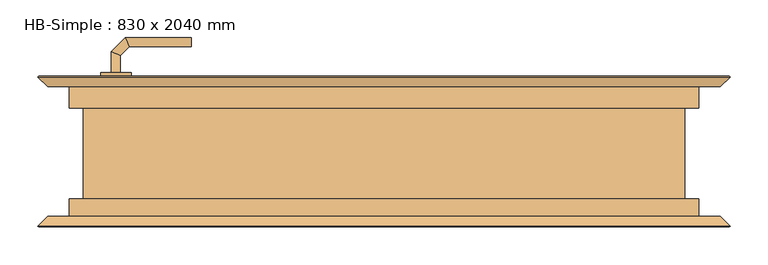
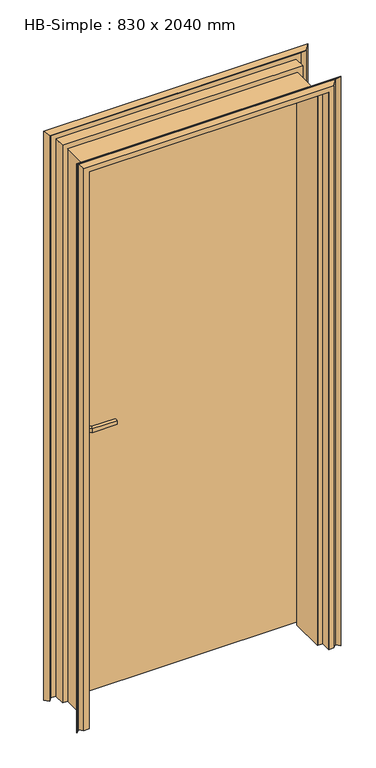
"""IFC4 building model written with IfcOpenShell, lengths in millimetres: door geometry, HB-Simple : 830 x 2040 mm."""

import ifcopenshell
import ifcopenshell.guid

model = None  # the IFC model being written
_history = None  # IfcOwnerHistory: only IFC2X3 demands one
_inside = {}  # id of a spatial element -> (the spatial element, [elements in it])
_under = {}  # id of a project, library or spatial element -> (it, [spatial elements below it])
_declared = {}  # id of a project -> (the project, [libraries it declares])
_typed = {}  # id of a type object -> (the type object, [elements of that type])
_made_of = {}  # id of a material, layer set ... -> (it, [elements and type objects made of it])


def new_model(schema):
    """Start an empty IFC model of exactly this schema.

    Asked for "IFC4X3", IfcOpenShell would pick the latest addendum, in which some entities
    have other attributes; the version numbers below select the first issue.
    IFC2X3 requires an IfcOwnerHistory on every rooted entity: one is made here for all.
    """
    global model, _history
    if schema == "IFC4X3":
        model = ifcopenshell.file(schema_version=(4, 3, 0, 0))
    else:
        model = ifcopenshell.file(schema=schema)
    _inside.clear()
    _under.clear()
    _declared.clear()
    _typed.clear()
    _made_of.clear()
    _history = None
    if model.schema == "IFC2X3":
        org = make("IfcOrganization", Name="unknown")
        user = make(
            "IfcPersonAndOrganization",
            ThePerson=make("IfcPerson", FamilyName="unknown"),
            TheOrganization=org,
        )
        app = make(
            "IfcApplication",
            ApplicationDeveloper=org,
            Version="unknown",
            ApplicationFullName="unknown",
            ApplicationIdentifier="unknown",
        )
        _history = make(
            "IfcOwnerHistory",
            OwningUser=user,
            OwningApplication=app,
            ChangeAction="ADDED",
            CreationDate=0,
        )
    return model


def make(cls, **values):
    """One entity of the class cls with the attributes given. An attribute that is None is left unset."""
    return model.create_entity(
        cls, **{name: value for name, value in values.items() if value is not None}
    )


def rooted(cls, **values):
    """An entity with a GlobalId (a new one), such as an element, a storey or a relation."""
    return make(cls, GlobalId=ifcopenshell.guid.new(), OwnerHistory=_history, **values)


def si_unit(unit_type, name, prefix=None):
    """IfcSIUnit, for example si_unit("LENGTHUNIT", "METRE", prefix="MILLI")."""
    return make("IfcSIUnit", UnitType=unit_type, Prefix=prefix, Name=name)


def assignment(units):
    """IfcUnitAssignment: the units of a project."""
    return None if units is None else make("IfcUnitAssignment", Units=units)


def point(xyz):
    """IfcCartesianPoint."""
    return None if xyz is None else make("IfcCartesianPoint", Coordinates=xyz)


def direction(xyz):
    """IfcDirection."""
    return None if xyz is None else make("IfcDirection", DirectionRatios=xyz)


def frame(location, z_axis=None, x_axis=None):
    """IfcAxis2Placement3D, a coordinate frame: its origin and axes. An axis left out is left unset."""
    return make(
        "IfcAxis2Placement3D",
        Location=point(location),
        Axis=direction(z_axis),
        RefDirection=direction(x_axis),
    )


def frame_2d(location, x_axis=None):
    """IfcAxis2Placement2D, a coordinate frame in the plane: its origin and x axis."""
    return make(
        "IfcAxis2Placement2D", Location=point(location), RefDirection=direction(x_axis)
    )


def origin():
    """The frame at (0, 0, 0) with its axes left unset."""
    return frame((0.0, 0.0, 0.0))


def place(relative_to, where):
    """IfcLocalPlacement: puts the frame where relative to a parent placement (None: the world)."""
    return make(
        "IfcLocalPlacement", PlacementRelTo=relative_to, RelativePlacement=where
    )


def context(
    kind, dimensions, precision=None, world=None, true_north=None, identifier=None
):
    """IfcGeometricRepresentationContext, for example the 3D "Model" context."""
    return make(
        "IfcGeometricRepresentationContext",
        ContextIdentifier=identifier,
        ContextType=kind,
        CoordinateSpaceDimension=dimensions,
        Precision=precision,
        WorldCoordinateSystem=world,
        TrueNorth=true_north,
    )


def project(units=None, contexts=None):
    """IfcProject with its units and contexts."""
    return rooted(
        "IfcProject",
        Name="project",
        RepresentationContexts=contexts,
        UnitsInContext=assignment(units),
    )


def spatial(cls, under=None, at=None, **own):
    """A site, building, storey or space (cls), placed at a placement, below another one or the project."""
    s = rooted(cls, ObjectPlacement=at, **own)
    if under is not None:
        _under.setdefault(under.id(), (under, []))[1].append(s)
    return s


def polyline(points):
    """IfcPolyline through the points."""
    return make("IfcPolyline", Points=[point(p) for p in points])


def circle_curve(where, radius):
    """IfcCircle in the frame where."""
    return make("IfcCircle", Position=where, Radius=radius)


def ellipse_curve(where, semi_axis1, semi_axis2):
    """IfcEllipse in the frame where."""
    return make(
        "IfcEllipse", Position=where, SemiAxis1=semi_axis1, SemiAxis2=semi_axis2
    )


def trimmed(basis, trim1, trim2, sense, master):
    """IfcTrimmedCurve: the piece of a basis curve between two trims."""
    return make(
        "IfcTrimmedCurve",
        BasisCurve=basis,
        Trim1=trim1,
        Trim2=trim2,
        SenseAgreement=sense,
        MasterRepresentation=master,
    )


def segment(curve, same_sense, transition):
    """IfcCompositeCurveSegment."""
    return make(
        "IfcCompositeCurveSegment",
        Transition=transition,
        SameSense=same_sense,
        ParentCurve=curve,
    )


def composite_curve(segments, self_intersect=None):
    """IfcCompositeCurve: segments joined end to end."""
    return make("IfcCompositeCurve", Segments=segments, SelfIntersect=self_intersect)


def outline(outer, holes=None, kind="AREA"):
    """IfcArbitraryClosedProfileDef: a profile drawn as a closed curve; with holes, ...WithVoids."""
    if holes is None:
        return make("IfcArbitraryClosedProfileDef", ProfileType=kind, OuterCurve=outer)
    return make(
        "IfcArbitraryProfileDefWithVoids",
        ProfileType=kind,
        OuterCurve=outer,
        InnerCurves=holes,
    )


def extrude(swept, where, along, depth):
    """IfcExtrudedAreaSolid: the profile swept, set in the frame where, extruded along a direction by depth."""
    return make(
        "IfcExtrudedAreaSolid",
        SweptArea=swept,
        Position=where,
        ExtrudedDirection=direction(along),
        Depth=depth,
    )


def faces_of(points, faces, orient=None, outer=None):
    """IfcFace entities. A face is a list of loops; a loop is a list of indices into points, from 0.

    orient and outer hold one flag for each loop. By default every Orientation is true, the
    first loop of a face is its IfcFaceOuterBound and the others are IfcFaceBound.
    """
    made = []
    for i, loops in enumerate(faces):
        bounds = []
        for j, loop in enumerate(loops):
            is_outer = j == 0 if outer is None else outer[i][j]
            bounds.append(
                make(
                    "IfcFaceOuterBound" if is_outer else "IfcFaceBound",
                    Bound=make("IfcPolyLoop", Polygon=[points[k] for k in loop]),
                    Orientation=True if orient is None else orient[i][j],
                )
            )
        made.append(make("IfcFace", Bounds=bounds))
    return made


def faceted_brep(points, faces, orient=None, outer=None, voids=None):
    """IfcFacetedBrep: a solid bounded by flat faces; with voids (closed shells), ...WithVoids."""
    shared = [point(p) for p in points]
    hull = make("IfcClosedShell", CfsFaces=faces_of(shared, faces, orient, outer))
    if voids is None:
        return make("IfcFacetedBrep", Outer=hull)
    return make(
        "IfcFacetedBrepWithVoids",
        Outer=hull,
        Voids=[
            make(cls, CfsFaces=faces_of(shared, fs, o, b)) for cls, fs, o, b in voids
        ],
    )


def shape(context_of_items, identifier, shape_type, items):
    """IfcShapeRepresentation: the items that make up one representation, for example the "Body"."""
    return make(
        "IfcShapeRepresentation",
        ContextOfItems=context_of_items,
        RepresentationIdentifier=identifier,
        RepresentationType=shape_type,
        Items=items,
    )


def source(mapping_origin, context_of_items, identifier, shape_type, items):
    """IfcRepresentationMap: a shape defined once, which mapped items show again and again."""
    return make(
        "IfcRepresentationMap",
        MappingOrigin=mapping_origin,
        MappedRepresentation=shape(context_of_items, identifier, shape_type, items),
    )


def transform(
    local_origin,
    x_axis=None,
    y_axis=None,
    z_axis=None,
    scale=None,
    scale2=None,
    scale3=None,
    uniform=True,
):
    """IfcCartesianTransformationOperator3D, or its non-uniform kind. x_axis, y_axis, z_axis: its Axis1, 2, 3."""
    if uniform:
        return make(
            "IfcCartesianTransformationOperator3D",
            Axis1=direction(x_axis),
            Axis2=direction(y_axis),
            LocalOrigin=point(local_origin),
            Scale=scale,
            Axis3=direction(z_axis),
        )
    return make(
        "IfcCartesianTransformationOperator3DnonUniform",
        Axis1=direction(x_axis),
        Axis2=direction(y_axis),
        LocalOrigin=point(local_origin),
        Scale=scale,
        Axis3=direction(z_axis),
        Scale2=scale2,
        Scale3=scale3,
    )


def mapped(mapping_source, mapping_target):
    """IfcMappedItem: shows the shape of a source again, moved by a transform."""
    return make(
        "IfcMappedItem", MappingSource=mapping_source, MappingTarget=mapping_target
    )


def made_of(thing, what):
    """Note that an element or type object is made of a material, layer set ...; save() writes the relation."""
    if what is not None:
        _made_of.setdefault(what.id(), (what, []))[1].append(thing)
    return thing


def element(
    cls,
    number,
    at=None,
    inside=None,
    cuts=None,
    type_object=None,
    material=None,
    context=None,
    identifier="Body",
    shape_type=None,
    held_by="IfcProductDefinitionShape",
    body=None,
    shapes=None,
    **own,
):
    """One element of the class cls, such as IfcWall. Its Tag is "e" and its number.

    at: its placement. inside: the storey or other place that contains it. cuts: it is an
    opening in that element (IfcRelVoidsElement). A single representation is given by context,
    identifier, shape_type and body (its items); several are given by shapes. held_by: the class
    of the entity that holds the representations. save() writes the other relations.
    """
    e = rooted(cls, Tag="e%d" % number, ObjectPlacement=at, **own)
    if body is not None:
        shapes = [shape(context, identifier, shape_type, body)]
    if shapes is not None:
        e.Representation = make(held_by, Representations=shapes)
    if inside is not None:
        _inside.setdefault(inside.id(), (inside, []))[1].append(e)
    if cuts is not None:
        rooted(
            "IfcRelVoidsElement", RelatingBuildingElement=cuts, RelatedOpeningElement=e
        )
    if type_object is not None:
        _typed.setdefault(type_object.id(), (type_object, []))[1].append(e)
    return made_of(e, material)


def aggregate(whole, parts):
    """IfcRelAggregates: a whole, such as a stair, and the parts it consists of."""
    return rooted("IfcRelAggregates", RelatingObject=whole, RelatedObjects=parts)


def save(model, path):
    """Write the relations noted so far, then the file.

    IfcRelAggregates (storeys below a building ...), IfcRelContainedInSpatialStructure (elements
    in a storey), IfcRelDefinesByType, IfcRelAssociatesMaterial and IfcRelDeclares: one each for
    every whole, place, type object, material and project.
    """
    for whole, parts in _under.values():
        aggregate(whole, parts)
    for where, things in _inside.values():
        rooted(
            "IfcRelContainedInSpatialStructure",
            RelatedElements=things,
            RelatingStructure=where,
        )
    for kind, things in _typed.values():
        rooted("IfcRelDefinesByType", RelatedObjects=things, RelatingType=kind)
    for what, things in _made_of.values():
        rooted("IfcRelAssociatesMaterial", RelatedObjects=things, RelatingMaterial=what)
    for by, libraries in _declared.values():
        rooted("IfcRelDeclares", RelatingContext=by, RelatedDefinitions=libraries)
    model.write(path)


def plane_surface(at):
    """IfcPlane: the flat surface through the origin of the frame at, square to its z axis."""
    return make("IfcPlane", Position=at)


def cylinder_surface(at, radius):
    """IfcCylindricalSurface: all points at the distance radius from the z axis of the frame at."""
    return make("IfcCylindricalSurface", Position=at, Radius=radius)


def advanced_brep(points, edges, surfaces, faces):
    """IfcAdvancedBrep: a solid bounded by faces that lie on surfaces and meet in shared edges.

    An edge is (start, end): straight between two places in points (the first is 0);
    or (start, end, curve); or (start, end, curve, False) where it runs against its curve.
    A face is (place in surfaces, loops), or (place, loops, False) where it looks against
    its surface's normal. A loop lists edges by number (the first is 1), with a minus sign
    where the edge is run from its end to its start. The first loop is the outer one.
    """
    corners = [point(p) for p in points]
    vertices = [make("IfcVertexPoint", VertexGeometry=c) for c in corners]
    made = []
    for start, end, *more in edges:
        made.append(
            make(
                "IfcEdgeCurve",
                EdgeStart=vertices[start],
                EdgeEnd=vertices[end],
                EdgeGeometry=more[0] if more else make("IfcPolyline", Points=[corners[start], corners[end]]),
                SameSense=more[1] if len(more) > 1 else True,
            )
        )
    hull = []
    for where, loops, *sense in faces:
        bounds = []
        for j, loop in enumerate(loops):
            ring = [make("IfcOrientedEdge", EdgeElement=made[abs(k) - 1], Orientation=k > 0) for k in loop]
            bounds.append(
                make(
                    "IfcFaceOuterBound" if j == 0 else "IfcFaceBound",
                    Bound=make("IfcEdgeLoop", EdgeList=ring),
                    Orientation=True,
                )
            )
        hull.append(make("IfcAdvancedFace", Bounds=bounds, FaceSurface=surfaces[where], SameSense=sense[0] if sense else True))
    return make("IfcAdvancedBrep", Outer=make("IfcClosedShell", CfsFaces=hull))


def hb_simple_830_x_2040_mm_c83fbc24(model_context):
    return source(origin(), model_context, "Body", "SolidModel", [
        advanced_brep(
        [(-349.0, 55.0, 993.0), (-361.0, 55.0, 993.0), (-361.0, 55.0, 1007.0), (-349.0, 55.0, 1007.0), (-349.0, 32.5147955, 1007.0), (-349.0, 32.5147955, 993.0), (-361.0, 27.5442327, 1007.0), (-361.0, 27.5442327, 993.0), (-337.5147186, 21.0295141, 1007.0), (-337.5147186, 21.0295141, 993.0), (-342.4852814, 9.0295141, 1007.0), (-342.4852814, 9.0295141, 993.0), (-254.9542163, 21.0295141, 993.0), (-254.9542163, 21.0295141, 1007.0), (-254.9542163, 9.0295141, 1007.0), (-254.9542163, 9.0295141, 993.0)],
        [
            (0, 1, circle_curve(frame((-355.0, 55.0, 1013.0457722), z_axis=(0.0, 1.0, 0.0), x_axis=(-1.0, 0.0, 0.0)), 20.9244589)),
            (1, 2),
            (2, 3, circle_curve(frame((-355.0, 55.0, 986.9542278), z_axis=(0.0, 1.0, 0.0), x_axis=(-1.0, 0.0, 0.0)), 20.9244589)),
            (3, 0),
            (3, 4),
            (4, 5),
            (5, 0),
            (2, 6),
            (6, 4, ellipse_curve(frame((-355.0, 30.0295141, 986.9542278), z_axis=(-0.38268343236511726, 0.9238795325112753, 0.0), x_axis=(0.9238795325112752, 0.38268343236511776, 0.0)), 22.6484711, 20.9244589)),
            (1, 7),
            (7, 6),
            (5, 7, ellipse_curve(frame((-355.0, 30.0295141, 1013.0457722), z_axis=(-0.38268343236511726, 0.9238795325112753, 0.0), x_axis=(0.9238795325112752, 0.38268343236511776, 0.0)), 22.6484711, 20.9244589)),
            (4, 8),
            (8, 9),
            (9, 5),
            (6, 10),
            (10, 8, ellipse_curve(frame((-340.0, 15.0295141, 986.9542278), z_axis=(-0.9238795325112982, 0.38268343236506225, 0.0), x_axis=(0.3826834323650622, 0.9238795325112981, 0.0)), 22.6484711, 20.9244589)),
            (7, 11),
            (11, 10),
            (9, 11, ellipse_curve(frame((-340.0, 15.0295141, 1013.0457722), z_axis=(-0.9238795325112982, 0.38268343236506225, 0.0), x_axis=(0.3826834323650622, 0.9238795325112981, 0.0)), 22.6484711, 20.9244589)),
            (12, 13),
            (13, 14, circle_curve(frame((-254.9542163, 15.0295141, 986.9542278), z_axis=(1.0, 0.0, 0.0), x_axis=(0.0, -1.0, 0.0)), 20.9244589)),
            (14, 15),
            (15, 12, circle_curve(frame((-254.9542163, 15.0295141, 1013.0457722), z_axis=(1.0, 0.0, 0.0), x_axis=(0.0, -1.0, 0.0)), 20.9244589)),
            (8, 13),
            (12, 9),
            (10, 14),
            (11, 15),
        ],
        [
            plane_surface(frame((-364.2195445, 55.0, 1000.0), z_axis=(0.0, 1.0, 0.0), x_axis=(0.0, 0.0, 1.0))),
            plane_surface(frame((-349.0, 55.0, 993.0), z_axis=(1.0, 0.0, 0.0), x_axis=(0.0, -1.0, 0.0))),
            cylinder_surface(frame((-355.0, 55.0, 986.9542278), z_axis=(0.0, 1.0, 0.0), x_axis=(-1.0, 0.0, 0.0)), 20.9244589),
            plane_surface(frame((-361.0, 55.0, 1007.0), z_axis=(-1.0, 0.0, 0.0), x_axis=(0.0, -1.0, 0.0))),
            cylinder_surface(frame((-355.0, 55.0, 1013.0457722), z_axis=(0.0, 1.0, 0.0), x_axis=(-1.0, 0.0, 0.0)), 20.9244589),
            plane_surface(frame((-349.0, 32.5147955, 993.0), z_axis=(0.7071067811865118, 0.7071067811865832, 0.0), x_axis=(0.7071067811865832, -0.7071067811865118, 0.0))),
            cylinder_surface(frame((-355.0, 30.0295141, 986.9542278), z_axis=(-0.7071067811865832, 0.7071067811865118, 0.0), x_axis=(-0.7071067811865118, -0.7071067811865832, 0.0)), 20.9244589),
            plane_surface(frame((-361.0, 27.5442327, 1007.0), z_axis=(-0.7071067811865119, -0.7071067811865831, 0.0), x_axis=(0.7071067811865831, -0.7071067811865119, 0.0))),
            cylinder_surface(frame((-355.0, 30.0295141, 1013.0457722), z_axis=(-0.7071067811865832, 0.7071067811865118, 0.0), x_axis=(-0.7071067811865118, -0.7071067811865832, 0.0)), 20.9244589),
            plane_surface(frame((-254.9542163, 15.0295141, 990.7804555), z_axis=(1.0, 0.0, 0.0), x_axis=(0.0, -1.0, 0.0))),
            plane_surface(frame((-337.5147186, 21.0295141, 993.0), z_axis=(0.0, 1.0, 0.0), x_axis=(1.0, 0.0, 0.0))),
            cylinder_surface(frame((-340.0, 15.0295141, 986.9542278), z_axis=(-1.0, 0.0, 0.0), x_axis=(0.0, -1.0, 0.0)), 20.9244589),
            plane_surface(frame((-342.4852814, 9.0295141, 1007.0), z_axis=(0.0, -1.0, 0.0), x_axis=(1.0, 0.0, 0.0))),
            cylinder_surface(frame((-340.0, 15.0295141, 1013.0457722), z_axis=(-1.0, 0.0, 0.0), x_axis=(0.0, -1.0, 0.0)), 20.9244589),
        ],
        [
            (0, [[1, 2, 3, 4]]),
            (1, [[5, 6, 7, -4]]),
            (2, [[8, 9, -5, -3]]),
            (3, [[10, 11, -8, -2]]),
            (4, [[-7, 12, -10, -1]]),
            (5, [[13, 14, 15, -6]]),
            (6, [[16, 17, -13, -9]]),
            (7, [[18, 19, -16, -11]]),
            (8, [[-15, 20, -18, -12]]),
            (9, [[21, 22, 23, 24]]),
            (10, [[25, -21, 26, -14]]),
            (11, [[27, -22, -25, -17]]),
            (12, [[28, -23, -27, -19]]),
            (13, [[-26, -24, -28, -20]]),
        ],
    ),
        advanced_brep(
        [(-361.0, 105.0, 1007.0), (-361.0, 105.0, 993.0), (-349.0, 105.0, 993.0), (-349.0, 105.0, 1007.0), (-349.0, 127.680388, 1007.0), (-361.0, 132.6509507, 1007.0), (-349.0, 127.680388, 993.0), (-361.0, 132.6509507, 993.0), (-337.6522273, 139.0281607, 1007.0), (-342.62279, 151.0281607, 1007.0), (-337.6522273, 139.0281607, 993.0), (-342.62279, 151.0281607, 993.0), (-254.9813594, 151.0281607, 1007.0), (-254.9813594, 139.0281607, 1007.0), (-254.9813594, 139.0281607, 993.0), (-254.9813594, 151.0281607, 993.0)],
        [
            (0, 1),
            (1, 2, circle_curve(frame((-355.0, 105.0, 1013.0457722), z_axis=(0.0, -1.0, 0.0), x_axis=(1.0, 0.0, 0.0)), 20.9244589)),
            (2, 3),
            (3, 0, circle_curve(frame((-355.0, 105.0, 986.9542278), z_axis=(0.0, -1.0, 0.0), x_axis=(1.0, 0.0, 0.0)), 20.9244589)),
            (3, 4),
            (4, 5, ellipse_curve(frame((-355.0, 130.1656693, 986.9542278), z_axis=(-0.3826834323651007, -0.9238795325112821, 0.0), x_axis=(0.9238795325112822, -0.3826834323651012, 0.0)), 22.6484711, 20.9244589)),
            (5, 0),
            (2, 6),
            (6, 4),
            (1, 7),
            (7, 6, ellipse_curve(frame((-355.0, 130.1656693, 1013.0457722), z_axis=(-0.3826834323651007, -0.9238795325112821, 0.0), x_axis=(0.9238795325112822, -0.3826834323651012, 0.0)), 22.6484711, 20.9244589)),
            (5, 7),
            (4, 8),
            (8, 9, ellipse_curve(frame((-340.1375086, 145.0281607, 986.9542278), z_axis=(-0.9238795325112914, -0.3826834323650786, 0.0), x_axis=(0.38268343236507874, -0.9238795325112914, 0.0)), 22.6484711, 20.9244589)),
            (9, 5),
            (6, 10),
            (10, 8),
            (7, 11),
            (11, 10, ellipse_curve(frame((-340.1375086, 145.0281607, 1013.0457722), z_axis=(-0.9238795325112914, -0.3826834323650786, 0.0), x_axis=(0.38268343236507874, -0.9238795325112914, 0.0)), 22.6484711, 20.9244589)),
            (9, 11),
            (12, 13, circle_curve(frame((-254.9813594, 145.0281607, 986.9542278), z_axis=(1.0, 0.0, 0.0), x_axis=(0.0, -1.0, 0.0)), 20.9244589)),
            (13, 14),
            (14, 15, circle_curve(frame((-254.9813594, 145.0281607, 1013.0457722), z_axis=(1.0, 0.0, 0.0), x_axis=(0.0, -1.0, 0.0)), 20.9244589)),
            (15, 12),
            (8, 13),
            (12, 9),
            (10, 14),
            (11, 15),
        ],
        [
            plane_surface(frame((-364.2195445, 105.0, 1000.0), z_axis=(0.0, -1.0, 0.0), x_axis=(0.0, 0.0, -1.0))),
            cylinder_surface(frame((-355.0, 105.0, 986.9542278), z_axis=(0.0, -1.0, 0.0), x_axis=(1.0, 0.0, 0.0)), 20.9244589),
            plane_surface(frame((-349.0, 105.0, 1007.0), z_axis=(1.0, 0.0, 0.0), x_axis=(0.0, 1.0, 0.0))),
            cylinder_surface(frame((-355.0, 105.0, 1013.0457722), z_axis=(0.0, -1.0, 0.0), x_axis=(1.0, 0.0, 0.0)), 20.9244589),
            plane_surface(frame((-361.0, 105.0, 993.0), z_axis=(-1.0, 0.0, 0.0), x_axis=(0.0, 1.0, 0.0))),
            cylinder_surface(frame((-355.0, 130.1656693, 986.9542278), z_axis=(-0.7071067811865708, -0.7071067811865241, 0.0), x_axis=(0.7071067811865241, -0.7071067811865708, 0.0)), 20.9244589),
            plane_surface(frame((-349.0, 127.680388, 1007.0), z_axis=(0.7071067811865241, -0.7071067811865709, 0.0), x_axis=(0.7071067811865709, 0.7071067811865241, 0.0))),
            cylinder_surface(frame((-355.0, 130.1656693, 1013.0457722), z_axis=(-0.7071067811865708, -0.7071067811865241, 0.0), x_axis=(0.7071067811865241, -0.7071067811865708, 0.0)), 20.9244589),
            plane_surface(frame((-361.0, 132.6509507, 993.0), z_axis=(-0.7071067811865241, 0.7071067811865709, 0.0), x_axis=(0.7071067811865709, 0.7071067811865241, 0.0))),
            plane_surface(frame((-254.9813594, 145.0281607, 990.7804555), z_axis=(1.0, 0.0, 0.0), x_axis=(0.0, -1.0, 0.0))),
            cylinder_surface(frame((-340.1375086, 145.0281607, 986.9542278), z_axis=(-1.0, 0.0, 0.0), x_axis=(0.0, -1.0, 0.0)), 20.9244589),
            plane_surface(frame((-337.6522273, 139.0281607, 1007.0), z_axis=(0.0, -1.0, 0.0), x_axis=(1.0, 0.0, 0.0))),
            cylinder_surface(frame((-340.1375086, 145.0281607, 1013.0457722), z_axis=(-1.0, 0.0, 0.0), x_axis=(0.0, -1.0, 0.0)), 20.9244589),
            plane_surface(frame((-342.62279, 151.0281607, 993.0), z_axis=(0.0, 1.0, 0.0), x_axis=(1.0, 0.0, 0.0))),
        ],
        [
            (0, [[1, 2, 3, 4]]),
            (1, [[5, 6, 7, -4]]),
            (2, [[8, 9, -5, -3]]),
            (3, [[10, 11, -8, -2]]),
            (4, [[-7, 12, -10, -1]]),
            (5, [[13, 14, 15, -6]]),
            (6, [[16, 17, -13, -9]]),
            (7, [[18, 19, -16, -11]]),
            (8, [[-15, 20, -18, -12]]),
            (9, [[21, 22, 23, 24]]),
            (10, [[25, -21, 26, -14]]),
            (11, [[27, -22, -25, -17]]),
            (12, [[28, -23, -27, -19]]),
            (13, [[-26, -24, -28, -20]]),
        ],
    ),
        extrude(outline(composite_curve([segment(trimmed(circle_curve(frame_2d((1045.3589838, -355.0)), 40.0), [point((1080.0, -335.0))], [point((1080.0, -375.0))], False, "CARTESIAN"), True, "CONTINUOUS"), segment(polyline([(1080.0, -375.0), (870.0, -375.0)]), True, "CONTINUOUS"), segment(trimmed(circle_curve(frame_2d((904.6410162, -355.0)), 40.0), [point((870.0, -375.0))], [point((870.0, -335.0))], False, "CARTESIAN"), True, "CONTINUOUS"), segment(polyline([(870.0, -335.0), (1080.0, -335.0)]), True, "CONTINUOUS")], self_intersect=False)), frame((0.0, 55.0, 0.0), z_axis=(0.0, 1.0, 0.0), x_axis=(0.0, 0.0, 1.0)), (0.0, 0.0, 1.0), 5.0),
        extrude(outline(composite_curve([segment(trimmed(circle_curve(frame_2d((904.6410162, -355.0)), 40.0), [point((870.0, -375.0))], [point((870.0, -335.0))], False, "CARTESIAN"), True, "CONTINUOUS"), segment(polyline([(870.0, -335.0), (1080.0, -335.0)]), True, "CONTINUOUS"), segment(trimmed(circle_curve(frame_2d((1045.3589838, -355.0)), 40.0), [point((1080.0, -335.0))], [point((1080.0, -375.0))], False, "CARTESIAN"), True, "CONTINUOUS"), segment(polyline([(1080.0, -375.0), (870.0, -375.0)]), True, "CONTINUOUS")], self_intersect=False)), frame((0.0, 100.0, 0.0), z_axis=(0.0, 1.0, 0.0), x_axis=(0.0, 0.0, 1.0)), (0.0, 0.0, 1.0), 5.0),
        extrude(outline(polyline([(-415.0, 60.0), (-415.0, 100.0), (415.0, 100.0), (415.0, 60.0), (-415.0, 60.0)])), frame((0.0, 0.0, 10.0), z_axis=(0.0, 0.0, 1.0), x_axis=(1.0, 0.0, 0.0)), (0.0, 0.0, 1.0), 2030.0),
        faceted_brep([(433.5, 100.0, 0.0), (445.5, 88.0, 0.0), (457.5, 100.0, 0.0), (458.5, 99.0, 0.0), (445.5, 86.0, 0.0), (433.5, 98.0, 0.0), (416.5, 98.0, 0.0), (416.5, 58.0, 0.0), (398.5, 58.0, 0.0), (398.5, -63.0, 0.0), (416.5, -63.0, 0.0), (416.5, -98.0, 0.0), (433.5, -98.0, 0.0), (445.5, -86.0, 0.0), (458.5, -99.0, 0.0), (457.5, -100.0, 0.0), (445.5, -88.0, 0.0), (433.5, -100.0, 0.0), (415.5794979, -100.0, 0.0), (415.0, -98.9205021, 0.0), (415.0, -65.0, 0.0), (397.4545286, -65.0, 0.0), (396.5, -64.0454714, 0.0), (396.5, 58.9813626, 0.0), (397.5186374, 60.0, 0.0), (415.0, 60.0, 0.0), (415.0, 98.9798135, 0.0), (415.5201865, 100.0, 0.0), (415.5201865, 100.0, 2040.5201865), (-415.5201865, 100.0, 2040.5201865), (-415.5201865, 100.0, 0.0), (-433.5, 100.0, 0.0), (-433.5, 100.0, 2058.5), (433.5, 100.0, 2058.5), (415.0, 98.9798135, 2040.0), (415.0, 60.0, 2040.0), (397.5186374, 60.0, 2022.5186374), (-397.5186374, 60.0, 2022.5186374), (-397.5186374, 60.0, 0.0), (-415.0, 60.0, 0.0), (-415.0, 60.0, 2040.0), (396.5, 58.9813626, 2021.5), (396.5, -64.0454714, 2021.5), (397.4545286, -65.0, 2022.4545286), (415.0, -65.0, 2040.0), (-415.0, -65.0, 2040.0), (-415.0, -65.0, 0.0), (-397.4545286, -65.0, 0.0), (-397.4545286, -65.0, 2022.4545286), (415.0, -98.9205021, 2040.0), (415.5794979, -100.0, 2040.5794979), (433.5, -100.0, 2058.5), (-433.5, -100.0, 2058.5), (-433.5, -100.0, 0.0), (-415.5794979, -100.0, 0.0), (-415.5794979, -100.0, 2040.5794979), (445.5, -88.0, 2070.5), (457.5, -100.0, 2082.5), (458.5, -99.0, 2083.5), (445.5, -86.0, 2070.5), (433.5, -98.0, 2058.5), (416.5, -98.0, 2041.5), (-416.5, -98.0, 2041.5), (-416.5, -98.0, 0.0), (-433.5, -98.0, 0.0), (-433.5, -98.0, 2058.5), (416.5, -63.0, 2041.5), (398.5, -63.0, 2023.5), (-398.5, -63.0, 2023.5), (-398.5, -63.0, 0.0), (-416.5, -63.0, 0.0), (-416.5, -63.0, 2041.5), (398.5, 58.0, 2023.5), (416.5, 58.0, 2041.5), (-416.5, 58.0, 2041.5), (-416.5, 58.0, 0.0), (-398.5, 58.0, 0.0), (-398.5, 58.0, 2023.5), (416.5, 98.0, 2041.5), (433.5, 98.0, 2058.5), (-433.5, 98.0, 2058.5), (-433.5, 98.0, 0.0), (-416.5, 98.0, 0.0), (-416.5, 98.0, 2041.5), (445.5, 86.0, 2070.5), (458.5, 99.0, 2083.5), (457.5, 100.0, 2082.5), (445.5, 88.0, 2070.5), (-415.0, 98.9798135, 0.0), (-396.5, 58.9813626, 0.0), (-396.5, -64.0454714, 0.0), (-415.0, -98.9205021, 0.0), (-445.5, -88.0, 0.0), (-457.5, -100.0, 0.0), (-458.5, -99.0, 0.0), (-445.5, -86.0, 0.0), (-445.5, 86.0, 0.0), (-458.5, 99.0, 0.0), (-457.5, 100.0, 0.0), (-445.5, 88.0, 0.0), (-445.5, 88.0, 2070.5), (-457.5, 100.0, 2082.5), (-458.5, 99.0, 2083.5), (-445.5, 86.0, 2070.5), (-445.5, -86.0, 2070.5), (-458.5, -99.0, 2083.5), (-457.5, -100.0, 2082.5), (-445.5, -88.0, 2070.5), (-415.0, -98.9205021, 2040.0), (-396.5, -64.0454714, 2021.5), (-396.5, 58.9813626, 2021.5), (-415.0, 98.9798135, 2040.0)], [[[0, 1, 2, 3, 4, 5, 6, 7, 8, 9, 10, 11, 12, 13, 14, 15, 16, 17, 18, 19, 20, 21, 22, 23, 24, 25, 26, 27]], [[27, 28, 29, 30, 31, 32, 33, 0]], [[26, 34, 28, 27]], [[25, 35, 34, 26]], [[24, 36, 37, 38, 39, 40, 35, 25]], [[23, 41, 36, 24]], [[22, 42, 41, 23]], [[21, 43, 42, 22]], [[20, 44, 45, 46, 47, 48, 43, 21]], [[19, 49, 44, 20]], [[18, 50, 49, 19]], [[17, 51, 52, 53, 54, 55, 50, 18]], [[16, 56, 51, 17]], [[15, 57, 56, 16]], [[14, 58, 57, 15]], [[13, 59, 58, 14]], [[12, 60, 59, 13]], [[11, 61, 62, 63, 64, 65, 60, 12]], [[10, 66, 61, 11]], [[9, 67, 68, 69, 70, 71, 66, 10]], [[8, 72, 67, 9]], [[7, 73, 74, 75, 76, 77, 72, 8]], [[6, 78, 73, 7]], [[5, 79, 80, 81, 82, 83, 78, 6]], [[4, 84, 79, 5]], [[3, 85, 84, 4]], [[2, 86, 85, 3]], [[1, 87, 86, 2]], [[0, 33, 87, 1]], [[31, 30, 88, 39, 38, 89, 90, 47, 46, 91, 54, 53, 92, 93, 94, 95, 64, 63, 70, 69, 76, 75, 82, 81, 96, 97, 98, 99]], [[32, 31, 99, 100]], [[100, 99, 98, 101]], [[101, 98, 97, 102]], [[102, 97, 96, 103]], [[103, 96, 81, 80]], [[83, 82, 75, 74]], [[77, 76, 69, 68]], [[71, 70, 63, 62]], [[65, 64, 95, 104]], [[104, 95, 94, 105]], [[105, 94, 93, 106]], [[106, 93, 92, 107]], [[107, 92, 53, 52]], [[55, 54, 91, 108]], [[108, 91, 46, 45]], [[48, 47, 90, 109]], [[109, 90, 89, 110]], [[110, 89, 38, 37]], [[40, 39, 88, 111]], [[111, 88, 30, 29]], [[35, 40, 111, 34]], [[42, 109, 110, 41]], [[49, 108, 45, 44]], [[66, 71, 62, 61]], [[72, 77, 68, 67]], [[78, 83, 74, 73]], [[34, 111, 29, 28]], [[41, 110, 37, 36]], [[43, 48, 109, 42]], [[50, 55, 108, 49]], [[56, 107, 52, 51]], [[57, 106, 107, 56]], [[58, 105, 106, 57]], [[59, 104, 105, 58]], [[60, 65, 104, 59]], [[84, 103, 80, 79]], [[85, 102, 103, 84]], [[86, 101, 102, 85]], [[87, 100, 101, 86]], [[33, 32, 100, 87]]]),
    ])


if __name__ == "__main__":
    model = new_model("IFC4")
    model_context = context("Model", 3, world=origin())
    ifc_project = project(units=[si_unit("LENGTHUNIT", "METRE", prefix="MILLI")], contexts=[model_context])
    site = spatial("IfcSite", under=ifc_project)
    building = spatial("IfcBuilding", under=site)
    placement = place(None, origin())
    hb_simple_830_x_2040_mm_shape = hb_simple_830_x_2040_mm_c83fbc24(model_context)
    element("IfcDoor", 1, ObjectType="HB-Simple : 830 x 2040 mm", at=placement, inside=building, context=model_context, shape_type="MappedRepresentation", body=[
        mapped(hb_simple_830_x_2040_mm_shape, transform((0.0, 0.0, 0.0), x_axis=(1.0, 0.0, 0.0), y_axis=(0.0, 1.0, 0.0), z_axis=(0.0, 0.0, 1.0))),
    ])
    save(model, "model.ifc")
